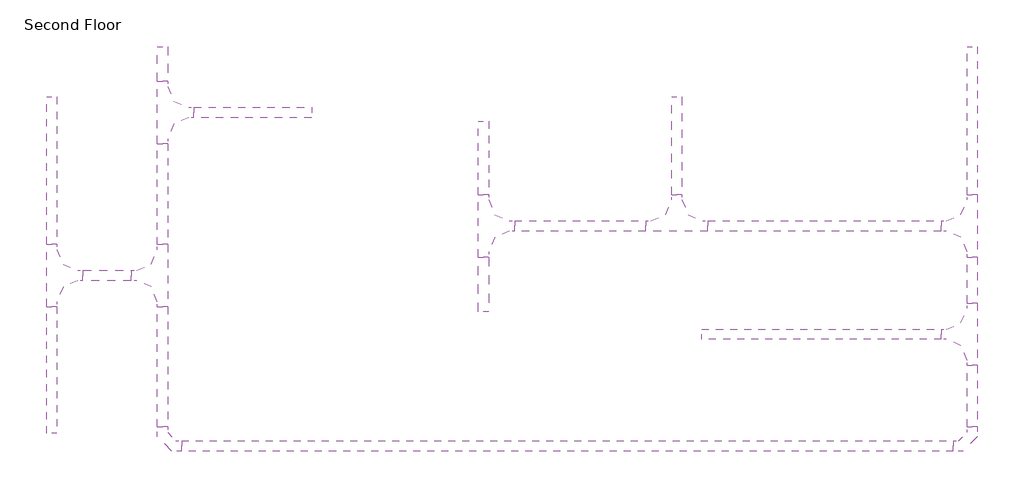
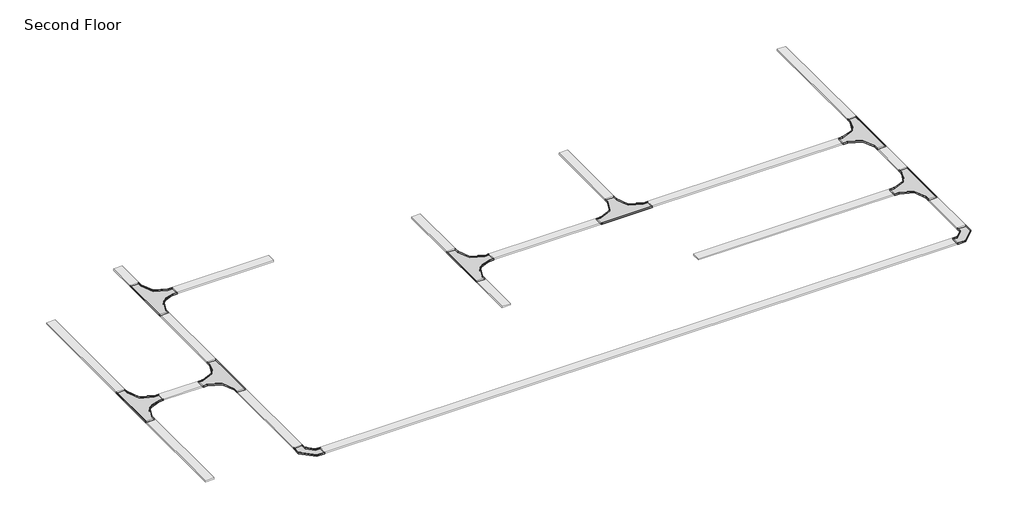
# One storey: 17 cable carrier segments, 9 cable carrier fittings.
"""IFC4 building model written with IfcOpenShell, lengths in millimetres."""

import ifcopenshell
import ifcopenshell.guid

model = None  # the IFC model being written
_history = None  # IfcOwnerHistory: only IFC2X3 demands one
_inside = {}  # id of a spatial element -> (the spatial element, [elements in it])
_under = {}  # id of a project, library or spatial element -> (it, [spatial elements below it])
_declared = {}  # id of a project -> (the project, [libraries it declares])
_typed = {}  # id of a type object -> (the type object, [elements of that type])
_made_of = {}  # id of a material, layer set ... -> (it, [elements and type objects made of it])


def new_model(schema):
    """Start an empty IFC model of exactly this schema.

    Asked for "IFC4X3", IfcOpenShell would pick the latest addendum, in which some entities
    have other attributes; the version numbers below select the first issue.
    IFC2X3 requires an IfcOwnerHistory on every rooted entity: one is made here for all.
    """
    global model, _history
    if schema == "IFC4X3":
        model = ifcopenshell.file(schema_version=(4, 3, 0, 0))
    else:
        model = ifcopenshell.file(schema=schema)
    _inside.clear()
    _under.clear()
    _declared.clear()
    _typed.clear()
    _made_of.clear()
    _history = None
    if model.schema == "IFC2X3":
        org = make("IfcOrganization", Name="unknown")
        user = make(
            "IfcPersonAndOrganization",
            ThePerson=make("IfcPerson", FamilyName="unknown"),
            TheOrganization=org,
        )
        app = make(
            "IfcApplication",
            ApplicationDeveloper=org,
            Version="unknown",
            ApplicationFullName="unknown",
            ApplicationIdentifier="unknown",
        )
        _history = make(
            "IfcOwnerHistory",
            OwningUser=user,
            OwningApplication=app,
            ChangeAction="ADDED",
            CreationDate=0,
        )
    return model


def make(cls, **values):
    """One entity of the class cls with the attributes given. An attribute that is None is left unset."""
    return model.create_entity(
        cls, **{name: value for name, value in values.items() if value is not None}
    )


def rooted(cls, **values):
    """An entity with a GlobalId (a new one), such as an element, a storey or a relation."""
    return make(cls, GlobalId=ifcopenshell.guid.new(), OwnerHistory=_history, **values)


def si_unit(unit_type, name, prefix=None):
    """IfcSIUnit, for example si_unit("LENGTHUNIT", "METRE", prefix="MILLI")."""
    return make("IfcSIUnit", UnitType=unit_type, Prefix=prefix, Name=name)


def assignment(units):
    """IfcUnitAssignment: the units of a project."""
    return None if units is None else make("IfcUnitAssignment", Units=units)


def point(xyz):
    """IfcCartesianPoint."""
    return None if xyz is None else make("IfcCartesianPoint", Coordinates=xyz)


def direction(xyz):
    """IfcDirection."""
    return None if xyz is None else make("IfcDirection", DirectionRatios=xyz)


def frame(location, z_axis=None, x_axis=None):
    """IfcAxis2Placement3D, a coordinate frame: its origin and axes. An axis left out is left unset."""
    return make(
        "IfcAxis2Placement3D",
        Location=point(location),
        Axis=direction(z_axis),
        RefDirection=direction(x_axis),
    )


def origin():
    """The frame at (0, 0, 0) with its axes left unset."""
    return frame((0.0, 0.0, 0.0))


def place(relative_to, where):
    """IfcLocalPlacement: puts the frame where relative to a parent placement (None: the world)."""
    return make(
        "IfcLocalPlacement", PlacementRelTo=relative_to, RelativePlacement=where
    )


def context(
    kind, dimensions, precision=None, world=None, true_north=None, identifier=None
):
    """IfcGeometricRepresentationContext, for example the 3D "Model" context."""
    return make(
        "IfcGeometricRepresentationContext",
        ContextIdentifier=identifier,
        ContextType=kind,
        CoordinateSpaceDimension=dimensions,
        Precision=precision,
        WorldCoordinateSystem=world,
        TrueNorth=true_north,
    )


def project(units=None, contexts=None):
    """IfcProject with its units and contexts."""
    return rooted(
        "IfcProject",
        Name="project",
        RepresentationContexts=contexts,
        UnitsInContext=assignment(units),
    )


def spatial(cls, under=None, at=None, **own):
    """A site, building, storey or space (cls), placed at a placement, below another one or the project."""
    s = rooted(cls, ObjectPlacement=at, **own)
    if under is not None:
        _under.setdefault(under.id(), (under, []))[1].append(s)
    return s


def polyline(points):
    """IfcPolyline through the points."""
    return make("IfcPolyline", Points=[point(p) for p in points])


def circle_curve(where, radius):
    """IfcCircle in the frame where."""
    return make("IfcCircle", Position=where, Radius=radius)


def outline(outer, holes=None, kind="AREA"):
    """IfcArbitraryClosedProfileDef: a profile drawn as a closed curve; with holes, ...WithVoids."""
    if holes is None:
        return make("IfcArbitraryClosedProfileDef", ProfileType=kind, OuterCurve=outer)
    return make(
        "IfcArbitraryProfileDefWithVoids",
        ProfileType=kind,
        OuterCurve=outer,
        InnerCurves=holes,
    )


def extrude(swept, where, along, depth):
    """IfcExtrudedAreaSolid: the profile swept, set in the frame where, extruded along a direction by depth."""
    return make(
        "IfcExtrudedAreaSolid",
        SweptArea=swept,
        Position=where,
        ExtrudedDirection=direction(along),
        Depth=depth,
    )


def faces_of(points, faces, orient=None, outer=None):
    """IfcFace entities. A face is a list of loops; a loop is a list of indices into points, from 0.

    orient and outer hold one flag for each loop. By default every Orientation is true, the
    first loop of a face is its IfcFaceOuterBound and the others are IfcFaceBound.
    """
    made = []
    for i, loops in enumerate(faces):
        bounds = []
        for j, loop in enumerate(loops):
            is_outer = j == 0 if outer is None else outer[i][j]
            bounds.append(
                make(
                    "IfcFaceOuterBound" if is_outer else "IfcFaceBound",
                    Bound=make("IfcPolyLoop", Polygon=[points[k] for k in loop]),
                    Orientation=True if orient is None else orient[i][j],
                )
            )
        made.append(make("IfcFace", Bounds=bounds))
    return made


def faceted_brep(points, faces, orient=None, outer=None, voids=None):
    """IfcFacetedBrep: a solid bounded by flat faces; with voids (closed shells), ...WithVoids."""
    shared = [point(p) for p in points]
    hull = make("IfcClosedShell", CfsFaces=faces_of(shared, faces, orient, outer))
    if voids is None:
        return make("IfcFacetedBrep", Outer=hull)
    return make(
        "IfcFacetedBrepWithVoids",
        Outer=hull,
        Voids=[
            make(cls, CfsFaces=faces_of(shared, fs, o, b)) for cls, fs, o, b in voids
        ],
    )


def shape(context_of_items, identifier, shape_type, items):
    """IfcShapeRepresentation: the items that make up one representation, for example the "Body"."""
    return make(
        "IfcShapeRepresentation",
        ContextOfItems=context_of_items,
        RepresentationIdentifier=identifier,
        RepresentationType=shape_type,
        Items=items,
    )


def source(mapping_origin, context_of_items, identifier, shape_type, items):
    """IfcRepresentationMap: a shape defined once, which mapped items show again and again."""
    return make(
        "IfcRepresentationMap",
        MappingOrigin=mapping_origin,
        MappedRepresentation=shape(context_of_items, identifier, shape_type, items),
    )


def transform(
    local_origin,
    x_axis=None,
    y_axis=None,
    z_axis=None,
    scale=None,
    scale2=None,
    scale3=None,
    uniform=True,
):
    """IfcCartesianTransformationOperator3D, or its non-uniform kind. x_axis, y_axis, z_axis: its Axis1, 2, 3."""
    if uniform:
        return make(
            "IfcCartesianTransformationOperator3D",
            Axis1=direction(x_axis),
            Axis2=direction(y_axis),
            LocalOrigin=point(local_origin),
            Scale=scale,
            Axis3=direction(z_axis),
        )
    return make(
        "IfcCartesianTransformationOperator3DnonUniform",
        Axis1=direction(x_axis),
        Axis2=direction(y_axis),
        LocalOrigin=point(local_origin),
        Scale=scale,
        Axis3=direction(z_axis),
        Scale2=scale2,
        Scale3=scale3,
    )


def mapped(mapping_source, mapping_target):
    """IfcMappedItem: shows the shape of a source again, moved by a transform."""
    return make(
        "IfcMappedItem", MappingSource=mapping_source, MappingTarget=mapping_target
    )


def made_of(thing, what):
    """Note that an element or type object is made of a material, layer set ...; save() writes the relation."""
    if what is not None:
        _made_of.setdefault(what.id(), (what, []))[1].append(thing)
    return thing


def element(
    cls,
    number,
    at=None,
    inside=None,
    cuts=None,
    type_object=None,
    material=None,
    context=None,
    identifier="Body",
    shape_type=None,
    held_by="IfcProductDefinitionShape",
    body=None,
    shapes=None,
    **own,
):
    """One element of the class cls, such as IfcWall. Its Tag is "e" and its number.

    at: its placement. inside: the storey or other place that contains it. cuts: it is an
    opening in that element (IfcRelVoidsElement). A single representation is given by context,
    identifier, shape_type and body (its items); several are given by shapes. held_by: the class
    of the entity that holds the representations. save() writes the other relations.
    """
    e = rooted(cls, Tag="e%d" % number, ObjectPlacement=at, **own)
    if body is not None:
        shapes = [shape(context, identifier, shape_type, body)]
    if shapes is not None:
        e.Representation = make(held_by, Representations=shapes)
    if inside is not None:
        _inside.setdefault(inside.id(), (inside, []))[1].append(e)
    if cuts is not None:
        rooted(
            "IfcRelVoidsElement", RelatingBuildingElement=cuts, RelatedOpeningElement=e
        )
    if type_object is not None:
        _typed.setdefault(type_object.id(), (type_object, []))[1].append(e)
    return made_of(e, material)


def aggregate(whole, parts):
    """IfcRelAggregates: a whole, such as a stair, and the parts it consists of."""
    return rooted("IfcRelAggregates", RelatingObject=whole, RelatedObjects=parts)


def save(model, path):
    """Write the relations noted so far, then the file.

    IfcRelAggregates (storeys below a building ...), IfcRelContainedInSpatialStructure (elements
    in a storey), IfcRelDefinesByType, IfcRelAssociatesMaterial and IfcRelDeclares: one each for
    every whole, place, type object, material and project.
    """
    for whole, parts in _under.values():
        aggregate(whole, parts)
    for where, things in _inside.values():
        rooted(
            "IfcRelContainedInSpatialStructure",
            RelatedElements=things,
            RelatingStructure=where,
        )
    for kind, things in _typed.values():
        rooted("IfcRelDefinesByType", RelatedObjects=things, RelatingType=kind)
    for what, things in _made_of.values():
        rooted("IfcRelAssociatesMaterial", RelatedObjects=things, RelatingMaterial=what)
    for by, libraries in _declared.values():
        rooted("IfcRelDeclares", RelatingContext=by, RelatedDefinitions=libraries)
    model.write(path)


def plane_surface(at):
    """IfcPlane: the flat surface through the origin of the frame at, square to its z axis."""
    return make("IfcPlane", Position=at)


def cylinder_surface(at, radius):
    """IfcCylindricalSurface: all points at the distance radius from the z axis of the frame at."""
    return make("IfcCylindricalSurface", Position=at, Radius=radius)


def revolved_surface(curve, axis_point, axis_direction):
    """IfcSurfaceOfRevolution: the curve turned about the line through axis_point along axis_direction."""
    return make(
        "IfcSurfaceOfRevolution",
        SweptCurve=make("IfcArbitraryOpenProfileDef", ProfileType="CURVE", Curve=curve),
        AxisPosition=make("IfcAxis1Placement", Location=point(axis_point), Axis=direction(axis_direction)),
    )


def advanced_brep(points, edges, surfaces, faces):
    """IfcAdvancedBrep: a solid bounded by faces that lie on surfaces and meet in shared edges.

    An edge is (start, end): straight between two places in points (the first is 0);
    or (start, end, curve); or (start, end, curve, False) where it runs against its curve.
    A face is (place in surfaces, loops), or (place, loops, False) where it looks against
    its surface's normal. A loop lists edges by number (the first is 1), with a minus sign
    where the edge is run from its end to its start. The first loop is the outer one.
    """
    corners = [point(p) for p in points]
    vertices = [make("IfcVertexPoint", VertexGeometry=c) for c in corners]
    made = []
    for start, end, *more in edges:
        made.append(
            make(
                "IfcEdgeCurve",
                EdgeStart=vertices[start],
                EdgeEnd=vertices[end],
                EdgeGeometry=more[0] if more else make("IfcPolyline", Points=[corners[start], corners[end]]),
                SameSense=more[1] if len(more) > 1 else True,
            )
        )
    hull = []
    for where, loops, *sense in faces:
        bounds = []
        for j, loop in enumerate(loops):
            ring = [make("IfcOrientedEdge", EdgeElement=made[abs(k) - 1], Orientation=k > 0) for k in loop]
            bounds.append(
                make(
                    "IfcFaceOuterBound" if j == 0 else "IfcFaceBound",
                    Bound=make("IfcEdgeLoop", EdgeList=ring),
                    Orientation=True,
                )
            )
        hull.append(make("IfcAdvancedFace", Bounds=bounds, FaceSurface=surfaces[where], SameSense=sense[0] if sense else True))
    return make("IfcAdvancedBrep", Outer=make("IfcClosedShell", CfsFaces=hull))


def cable_tray_horizontal_bend_standard_cea69160(model_context):
    return source(origin(), model_context, "Body", "Brep", [
        faceted_brep([(-275.0, -75.0, -12.5), (-275.0, -75.0, 12.5), (-275.0, -72.46, 12.5), (-275.0, -72.46, -9.96), (-275.0, 72.46, -9.96), (-275.0, 72.46, 12.5), (-275.0, 75.0, 12.5), (-275.0, 75.0, -12.5), (75.0, 275.0, -12.5), (-75.0, 275.0, -12.5), (-75.0, 275.0, 12.5), (-72.46, 275.0, 12.5), (-72.46, 275.0, -9.96), (72.46, 275.0, -9.96), (72.46, 275.0, 12.5), (75.0, 275.0, 12.5), (-130.0252532, -75.0, -12.5), (-130.0252532, -75.0, 12.5), (75.0, 130.0252532, 12.5), (72.46, 131.0773556, 12.5), (-131.0773556, -72.46, 12.5), (-131.0773556, -72.46, -9.96), (72.46, 131.0773556, -9.96), (-72.46, 191.1051851, -9.96), (-191.1051851, 72.46, -9.96), (-191.1051851, 72.46, 12.5), (-72.46, 191.1051851, 12.5), (-75.0, 192.1572875, 12.5), (-192.1572875, 75.0, 12.5), (-192.1572875, 75.0, -12.5), (-75.0, 192.1572875, -12.5), (75.0, 130.0252532, -12.5)], [[[0, 1, 2, 3, 4, 5, 6, 7]], [[8, 9, 10, 11, 12, 13, 14, 15]], [[1, 0, 16, 17]], [[2, 1, 17, 18, 15, 14, 19, 20]], [[3, 2, 20, 21]], [[4, 3, 21, 22, 13, 12, 23, 24]], [[5, 4, 24, 25]], [[6, 5, 25, 26, 11, 10, 27, 28]], [[7, 6, 28, 29]], [[0, 7, 29, 30, 9, 8, 31, 16]], [[17, 16, 31, 18]], [[21, 20, 19, 22]], [[25, 24, 23, 26]], [[29, 28, 27, 30]], [[18, 31, 8, 15]], [[22, 19, 14, 13]], [[26, 23, 12, 11]], [[30, 27, 10, 9]]]),
    ])


def m_channel_horizontal_tee_300mm_radius_7657e6b0(model_context):
    return source(origin(), model_context, "Body", "AdvancedBrep", [
        advanced_brep(
        [(-75.0, -375.0, 12.5), (-75.0, -450.0, 12.5), (-72.46, -450.0, 12.5), (-72.46, -375.0, 12.5), (-375.0, -72.46, 12.5), (-450.0, -72.46, 12.5), (-450.0, -75.0, 12.5), (-375.0, -75.0, 12.5), (75.0, -375.0, 12.5), (375.0, -75.0, 12.5), (450.0, -75.0, 12.5), (450.0, -72.46, 12.5), (375.0, -72.46, 12.5), (72.46, -375.0, 12.5), (72.46, -450.0, 12.5), (75.0, -450.0, 12.5), (450.0, 75.0, 12.5), (-450.0, 75.0, 12.5), (-450.0, 72.46, 12.5), (450.0, 72.46, 12.5), (-75.0, -375.0, -12.5), (-375.0, -75.0, -12.5), (-450.0, -75.0, -12.5), (-450.0, 75.0, -12.5), (450.0, 75.0, -12.5), (450.0, -75.0, -12.5), (375.0, -75.0, -12.5), (75.0, -375.0, -12.5), (75.0, -450.0, -12.5), (-75.0, -450.0, -12.5), (-75.0, -375.0, -9.96), (72.46, -450.0, -9.96), (-72.46, -450.0, -9.96), (-72.46, -375.0, -9.96), (-375.0, -72.46, -9.96), (-450.0, -72.46, -9.96), (-450.0, 72.46, -9.96), (-375.0, -75.0, -9.96), (75.0, -375.0, -9.96), (375.0, -75.0, -9.96), (450.0, 72.46, -9.96), (450.0, -72.46, -9.96), (375.0, -72.46, -9.96), (72.46, -375.0, -9.96)],
        [
            (0, 1),
            (1, 2),
            (2, 3),
            (3, 4, circle_curve(frame((-375.0, -375.0, 12.5), z_axis=(0.0, 0.0, 1.0), x_axis=(1.0, 0.0, 0.0)), 302.54)),
            (4, 5),
            (5, 6),
            (6, 7),
            (7, 0, circle_curve(frame((-375.0, -375.0, 12.5), z_axis=(0.0, 0.0, -1.0), x_axis=(1.0, 0.0, 0.0)), 300.0)),
            (8, 9, circle_curve(frame((375.0, -375.0, 12.5), z_axis=(0.0, 0.0, -1.0), x_axis=(1.0, 0.0, 0.0)), 300.0)),
            (9, 10),
            (10, 11),
            (11, 12),
            (12, 13, circle_curve(frame((375.0, -375.0, 12.5), z_axis=(0.0, 0.0, 1.0), x_axis=(1.0, 0.0, 0.0)), 302.54)),
            (13, 14),
            (14, 15),
            (15, 8),
            (16, 17),
            (17, 18),
            (18, 19),
            (19, 16),
            (20, 21, circle_curve(frame((-375.0, -375.0, -12.5), z_axis=(0.0, 0.0, 1.0), x_axis=(1.0, 0.0, 0.0)), 300.0)),
            (21, 22),
            (22, 23),
            (23, 24),
            (24, 25),
            (25, 26),
            (26, 27, circle_curve(frame((375.0, -375.0, -12.5), z_axis=(0.0, 0.0, 1.0), x_axis=(1.0, 0.0, 0.0)), 300.0)),
            (27, 28),
            (28, 29),
            (29, 20),
            (29, 1),
            (0, 30),
            (30, 20),
            (28, 15),
            (14, 31),
            (31, 32),
            (32, 2),
            (32, 33),
            (33, 3),
            (33, 34, circle_curve(frame((-375.0, -375.0, -9.96), z_axis=(0.0, 0.0, 1.0), x_axis=(1.0, 0.0, 0.0)), 302.54)),
            (34, 4),
            (34, 35),
            (35, 5),
            (35, 36),
            (36, 18),
            (17, 23),
            (22, 6),
            (21, 37),
            (37, 7),
            (8, 38),
            (38, 27),
            (26, 39),
            (39, 9),
            (25, 10),
            (24, 16),
            (19, 40),
            (40, 41),
            (41, 11),
            (41, 42),
            (42, 12),
            (42, 43, circle_curve(frame((375.0, -375.0, -9.96), z_axis=(0.0, 0.0, 1.0), x_axis=(1.0, 0.0, 0.0)), 302.54)),
            (43, 13),
            (43, 31),
            (36, 40),
        ],
        [
            plane_surface(frame((-75.0, -375.0, 12.5), z_axis=(0.0, 0.0, 1.0), x_axis=(0.0, -1.0, 0.0))),
            plane_surface(frame((-75.0, -375.0, -12.5), z_axis=(0.0, 0.0, -1.0), x_axis=(0.0, 1.0, 0.0))),
            plane_surface(frame((-75.0, -375.0, 12.5), z_axis=(-1.0, 0.0, 0.0), x_axis=(0.0, 0.0, -1.0))),
            plane_surface(frame((-75.0, -450.0, 12.5), z_axis=(0.0, -1.0, 0.0), x_axis=(0.0, 0.0, -1.0))),
            plane_surface(frame((-72.46, -450.0, 12.5), z_axis=(1.0, 0.0, 0.0), x_axis=(0.0, 0.0, -1.0))),
            cylinder_surface(frame((-375.0, -375.0, -12.5), z_axis=(0.0, 0.0, 1.0), x_axis=(1.0, 0.0, 0.0)), 302.54),
            plane_surface(frame((-375.0, -72.46, 12.5), z_axis=(0.0, 1.0, 0.0), x_axis=(0.0, 0.0, -1.0))),
            plane_surface(frame((-450.0, -72.46, 12.5), z_axis=(-1.0, 0.0, 0.0), x_axis=(0.0, 0.0, -1.0))),
            plane_surface(frame((-450.0, -75.0, 12.5), z_axis=(0.0, -1.0, 0.0), x_axis=(0.0, 0.0, -1.0))),
            revolved_surface(polyline([(-75.0, -375.0, -12.5), (-75.0, -375.0, 12.5)]), (-375.0, -375.0, -12.5), (0.0, 0.0, -1.0)),
            revolved_surface(polyline([(675.0, -375.0, -12.5), (675.0, -375.0, 12.5)]), (375.0, -375.0, 0.0), (0.0, 0.0, -1.0)),
            plane_surface(frame((375.0, -75.0, 12.5), z_axis=(0.0, -1.0, 0.0), x_axis=(0.0, 0.0, -1.0))),
            plane_surface(frame((450.0, -75.0, 12.5), z_axis=(1.0, 0.0, 0.0), x_axis=(0.0, 0.0, -1.0))),
            plane_surface(frame((450.0, -72.46, 12.5), z_axis=(0.0, 1.0, 0.0), x_axis=(0.0, 0.0, -1.0))),
            cylinder_surface(frame((375.0, -375.0, 0.0), z_axis=(0.0, 0.0, 1.0), x_axis=(1.0, 0.0, 0.0)), 302.54),
            plane_surface(frame((72.46, -375.0, 12.5), z_axis=(-1.0, 0.0, 0.0), x_axis=(0.0, 0.0, -1.0))),
            plane_surface(frame((75.0, -450.0, 12.5), z_axis=(1.0, 0.0, 0.0), x_axis=(0.0, 0.0, -1.0))),
            plane_surface(frame((450.0, 75.0, 12.5), z_axis=(0.0, 1.0, 0.0), x_axis=(0.0, 0.0, -1.0))),
            plane_surface(frame((-450.0, 72.46, 12.5), z_axis=(0.0, -1.0, 0.0), x_axis=(0.0, 0.0, -1.0))),
            plane_surface(frame((-75.0, -375.0, -9.96), z_axis=(0.0, 0.0, 1.0), x_axis=(0.0, -1.0, 0.0))),
        ],
        [
            (0, [[1, 2, 3, 4, 5, 6, 7, 8]]),
            (0, [[9, 10, 11, 12, 13, 14, 15, 16]]),
            (0, [[17, 18, 19, 20]]),
            (1, [[21, 22, 23, 24, 25, 26, 27, 28, 29, 30]]),
            (2, [[31, -1, 32, 33, -30]]),
            (3, [[-2, -31, -29, 34, -15, 35, 36, 37]]),
            (4, [[-3, -37, 38, 39]]),
            (5, [[-4, -39, 40, 41]]),
            (6, [[-5, -41, 42, 43]]),
            (7, [[-6, -43, 44, 45, -18, 46, -23, 47]]),
            (8, [[-7, -47, -22, 48, 49]]),
            (9, [[-8, -49, -48, -21, -33, -32]]),
            (10, [[-9, 50, 51, -27, 52, 53]]),
            (11, [[54, -10, -53, -52, -26]]),
            (12, [[-11, -54, -25, 55, -20, 56, 57, 58]]),
            (13, [[-12, -58, 59, 60]]),
            (14, [[-13, -60, 61, 62]]),
            (15, [[-14, -62, 63, -35]]),
            (16, [[-16, -34, -28, -51, -50]]),
            (17, [[-46, -17, -55, -24]]),
            (18, [[-19, -45, 64, -56]]),
            (19, [[-36, -63, -61, -59, -57, -64, -44, -42, -40, -38]]),
        ],
    ),
    ])


model = new_model("IFC4")

# Units and contexts
model_context = context("Model", 3, world=origin())
ifc_project = project(units=[si_unit("LENGTHUNIT", "METRE", prefix="MILLI")], contexts=[model_context])

# Site, building, storey
site = spatial("IfcSite", under=ifc_project)
building = spatial("IfcBuilding", under=site)
storey = spatial("IfcBuildingStorey", under=building, Name="Second Floor", Elevation=4000.0)

# Cable carrier fittings
placement = place(None, origin())
cable_tray_horizontal_bend_standard_shape = cable_tray_horizontal_bend_standard_cea69160(model_context)
element("IfcCableCarrierFitting", 1, ObjectType="Cable Tray Horizontal Bend : Standard", at=placement, inside=storey, context=model_context, shape_type="MappedRepresentation", body=[
    mapped(cable_tray_horizontal_bend_standard_shape, transform((8567.076402, -4128.3205251, 7000.0), x_axis=(1.0, 0.0, 0.0), y_axis=(0.0, 1.0, 0.0), z_axis=(0.0, 0.0, 1.0))),
])
element("IfcCableCarrierFitting", 2, ObjectType="Cable Tray Horizontal Bend : Standard", at=placement, inside=storey, context=model_context, shape_type="MappedRepresentation", body=[
    mapped(cable_tray_horizontal_bend_standard_shape, transform((-3112.923598, -4128.3205251, 7000.0), x_axis=(0.0, -1.0, 0.0), y_axis=(1.0, 0.0, 0.0), z_axis=(0.0, 0.0, 1.0))),
])
m_channel_horizontal_tee_300mm_radius_shape = m_channel_horizontal_tee_300mm_radius_7657e6b0(model_context)
element("IfcCableCarrierFitting", 3, ObjectType="M_Channel Horizontal Tee : 300mm Radius", at=placement, inside=storey, context=model_context, shape_type="MappedRepresentation", body=[
    mapped(m_channel_horizontal_tee_300mm_radius_shape, transform((8567.076402, -955.1832384, 7000.0), x_axis=(0.0, -1.0, 0.0), y_axis=(1.0, 0.0, 0.0), z_axis=(0.0, 0.0, 1.0))),
])
element("IfcCableCarrierFitting", 4, ObjectType="M_Channel Horizontal Tee : 300mm Radius", at=placement, inside=storey, context=model_context, shape_type="MappedRepresentation", body=[
    mapped(m_channel_horizontal_tee_300mm_radius_shape, transform((4304.6003663, -955.1832384, 7000.0), x_axis=(-1.0, 0.0, 0.0), y_axis=(0.0, -1.0, 0.0), z_axis=(0.0, 0.0, 1.0))),
])
element("IfcCableCarrierFitting", 5, ObjectType="M_Channel Horizontal Tee : 300mm Radius", at=placement, inside=storey, context=model_context, shape_type="MappedRepresentation", body=[
    mapped(m_channel_horizontal_tee_300mm_radius_shape, transform((-3112.923598, 679.2091256, 7000.0), x_axis=(0.0, 1.0, 0.0), y_axis=(-1.0, 0.0, 0.0), z_axis=(0.0, 0.0, 1.0))),
])
element("IfcCableCarrierFitting", 6, ObjectType="M_Channel Horizontal Tee : 300mm Radius", at=placement, inside=storey, context=model_context, shape_type="MappedRepresentation", body=[
    mapped(m_channel_horizontal_tee_300mm_radius_shape, transform((-3112.923598, -1672.0556998, 7000.0), x_axis=(0.0, -1.0, 0.0), y_axis=(1.0, 0.0, 0.0), z_axis=(0.0, 0.0, 1.0))),
])
element("IfcCableCarrierFitting", 7, ObjectType="M_Channel Horizontal Tee : 300mm Radius", at=placement, inside=storey, context=model_context, shape_type="MappedRepresentation", body=[
    mapped(m_channel_horizontal_tee_300mm_radius_shape, transform((-4712.923598, -1672.0556998, 7000.0), x_axis=(0.0, 1.0, 0.0), y_axis=(-1.0, 0.0, 0.0), z_axis=(0.0, 0.0, 1.0))),
])
element("IfcCableCarrierFitting", 8, ObjectType="M_Channel Horizontal Tee : 300mm Radius", at=placement, inside=storey, context=model_context, shape_type="MappedRepresentation", body=[
    mapped(m_channel_horizontal_tee_300mm_radius_shape, transform((1514.6003663, -955.1832384, 7000.0), x_axis=(0.0, 1.0, 0.0), y_axis=(-1.0, 0.0, 0.0), z_axis=(0.0, 0.0, 1.0))),
])
element("IfcCableCarrierFitting", 9, ObjectType="M_Channel Horizontal Tee : 300mm Radius", at=placement, inside=storey, context=model_context, shape_type="MappedRepresentation", body=[
    mapped(m_channel_horizontal_tee_300mm_radius_shape, transform((8567.076402, -2519.0272676, 7000.0), x_axis=(0.0, -1.0, 0.0), y_axis=(1.0, 0.0, 0.0), z_axis=(0.0, 0.0, 1.0))),
])

# Cable carrier segments
element("IfcCableCarrierSegment", 10, ObjectType="Channel Cable Tray", at=placement, inside=storey, context=model_context, shape_type="SweptSolid", body=[
    extrude(outline(polyline([(8492.076402, -2969.0272676), (8642.076402, -2969.0272676), (8642.076402, -3853.3205251), (8492.076402, -3853.3205251), (8492.076402, -2969.0272676)])), frame((0.0, 0.0, 6987.5), z_axis=(0.0, 0.0, 1.0), x_axis=(1.0, 0.0, 0.0)), (0.0, 0.0, 1.0), 25.0),
])
element("IfcCableCarrierSegment", 11, ObjectType="Channel Cable Tray", at=placement, inside=storey, context=model_context, shape_type="SweptSolid", body=[
    extrude(outline(polyline([(8292.076402, -4053.3205251), (8292.076402, -4203.3205251), (-2837.923598, -4203.3205251), (-2837.923598, -4053.3205251), (8292.076402, -4053.3205251)])), frame((0.0, 0.0, 6987.5), z_axis=(0.0, 0.0, 1.0), x_axis=(1.0, 0.0, 0.0)), (0.0, 0.0, 1.0), 25.0),
])
element("IfcCableCarrierSegment", 12, ObjectType="Channel Cable Tray", at=placement, inside=storey, context=model_context, shape_type="SweptSolid", body=[
    extrude(outline(polyline([(3854.6003663, -880.1832384), (3854.6003663, -1030.1832384), (1964.6003663, -1030.1832384), (1964.6003663, -880.1832384), (3854.6003663, -880.1832384)])), frame((0.0, 0.0, 6987.5), z_axis=(0.0, 0.0, 1.0), x_axis=(1.0, 0.0, 0.0)), (0.0, 0.0, 1.0), 25.0),
])
element("IfcCableCarrierSegment", 13, ObjectType="Channel Cable Tray", at=placement, inside=storey, context=model_context, shape_type="SweptSolid", body=[
    extrude(outline(polyline([(8492.076402, 1631.6794749), (8642.076402, 1631.6794749), (8642.076402, -505.1832384), (8492.076402, -505.1832384), (8492.076402, 1631.6794749)])), frame((0.0, 0.0, 6987.5), z_axis=(0.0, 0.0, 1.0), x_axis=(1.0, 0.0, 0.0)), (0.0, 0.0, 1.0), 25.0),
])
element("IfcCableCarrierSegment", 14, ObjectType="Channel Cable Tray", at=placement, inside=storey, context=model_context, shape_type="SweptSolid", body=[
    extrude(outline(polyline([(4379.6003663, -505.1832384), (4229.6003663, -505.1832384), (4229.6003663, 904.8167616), (4379.6003663, 904.8167616), (4379.6003663, -505.1832384)])), frame((0.0, 0.0, 6987.5), z_axis=(0.0, 0.0, 1.0), x_axis=(1.0, 0.0, 0.0)), (0.0, 0.0, 1.0), 25.0),
])
element("IfcCableCarrierSegment", 15, ObjectType="Channel Cable Tray", at=placement, inside=storey, context=model_context, shape_type="SweptSolid", body=[
    extrude(outline(polyline([(8117.076402, -880.1832384), (8117.076402, -1030.1832384), (4754.6003663, -1030.1832384), (4754.6003663, -880.1832384), (8117.076402, -880.1832384)])), frame((0.0, 0.0, 6987.5), z_axis=(0.0, 0.0, 1.0), x_axis=(1.0, 0.0, 0.0)), (0.0, 0.0, 1.0), 25.0),
])
element("IfcCableCarrierSegment", 16, ObjectType="Channel Cable Tray", at=placement, inside=storey, context=model_context, shape_type="SweptSolid", body=[
    extrude(outline(polyline([(-3037.923598, 1129.2091256), (-3187.923598, 1129.2091256), (-3187.923598, 1631.6794749), (-3037.923598, 1631.6794749), (-3037.923598, 1129.2091256)])), frame((0.0, 0.0, 6987.5), z_axis=(0.0, 0.0, 1.0), x_axis=(1.0, 0.0, 0.0)), (0.0, 0.0, 1.0), 25.0),
])
element("IfcCableCarrierSegment", 17, ObjectType="Channel Cable Tray", at=placement, inside=storey, context=model_context, shape_type="SweptSolid", body=[
    extrude(outline(polyline([(-2662.923598, 604.2091256), (-2662.923598, 754.2091256), (-962.923598, 754.2091256), (-962.923598, 604.2091256), (-2662.923598, 604.2091256)])), frame((0.0, 0.0, 6987.5), z_axis=(0.0, 0.0, 1.0), x_axis=(1.0, 0.0, 0.0)), (0.0, 0.0, 1.0), 25.0),
])
element("IfcCableCarrierSegment", 18, ObjectType="Channel Cable Tray", at=placement, inside=storey, context=model_context, shape_type="SweptSolid", body=[
    extrude(outline(polyline([(-3037.923598, -1222.0556998), (-3187.923598, -1222.0556998), (-3187.923598, 229.2091256), (-3037.923598, 229.2091256), (-3037.923598, -1222.0556998)])), frame((0.0, 0.0, 6987.5), z_axis=(0.0, 0.0, 1.0), x_axis=(1.0, 0.0, 0.0)), (0.0, 0.0, 1.0), 25.0),
])
element("IfcCableCarrierSegment", 19, ObjectType="Channel Cable Tray", at=placement, inside=storey, context=model_context, shape_type="SweptSolid", body=[
    extrude(outline(polyline([(-3562.923598, -1597.0556998), (-3562.923598, -1747.0556998), (-4262.923598, -1747.0556998), (-4262.923598, -1597.0556998), (-3562.923598, -1597.0556998)])), frame((0.0, 0.0, 6987.5), z_axis=(0.0, 0.0, 1.0), x_axis=(1.0, 0.0, 0.0)), (0.0, 0.0, 1.0), 25.0),
])
element("IfcCableCarrierSegment", 20, ObjectType="Channel Cable Tray", at=placement, inside=storey, context=model_context, shape_type="SweptSolid", body=[
    extrude(outline(polyline([(-3037.923598, -3853.3205251), (-3187.923598, -3853.3205251), (-3187.923598, -2122.0556998), (-3037.923598, -2122.0556998), (-3037.923598, -3853.3205251)])), frame((0.0, 0.0, 6987.5), z_axis=(0.0, 0.0, 1.0), x_axis=(1.0, 0.0, 0.0)), (0.0, 0.0, 1.0), 25.0),
])
element("IfcCableCarrierSegment", 21, ObjectType="Channel Cable Tray", at=placement, inside=storey, context=model_context, shape_type="SweptSolid", body=[
    extrude(outline(polyline([(-4637.923598, -1222.0556998), (-4787.923598, -1222.0556998), (-4787.923598, 904.8167616), (-4637.923598, 904.8167616), (-4637.923598, -1222.0556998)])), frame((0.0, 0.0, 6987.5), z_axis=(0.0, 0.0, 1.0), x_axis=(1.0, 0.0, 0.0)), (0.0, 0.0, 1.0), 25.0),
])
element("IfcCableCarrierSegment", 22, ObjectType="Channel Cable Tray", at=placement, inside=storey, context=model_context, shape_type="SweptSolid", body=[
    extrude(outline(polyline([(-4787.923598, -2122.0556998), (-4637.923598, -2122.0556998), (-4637.923598, -3947.0556998), (-4787.923598, -3947.0556998), (-4787.923598, -2122.0556998)])), frame((0.0, 0.0, 6987.5), z_axis=(0.0, 0.0, 1.0), x_axis=(1.0, 0.0, 0.0)), (0.0, 0.0, 1.0), 25.0),
])
element("IfcCableCarrierSegment", 23, ObjectType="Channel Cable Tray", at=placement, inside=storey, context=model_context, shape_type="SweptSolid", body=[
    extrude(outline(polyline([(1439.6003663, -1405.1832384), (1589.6003663, -1405.1832384), (1589.6003663, -2195.1832384), (1439.6003663, -2195.1832384), (1439.6003663, -1405.1832384)])), frame((0.0, 0.0, 6987.5), z_axis=(0.0, 0.0, 1.0), x_axis=(1.0, 0.0, 0.0)), (0.0, 0.0, 1.0), 25.0),
])
element("IfcCableCarrierSegment", 24, ObjectType="Channel Cable Tray", at=placement, inside=storey, context=model_context, shape_type="SweptSolid", body=[
    extrude(outline(polyline([(1589.6003663, -505.1832384), (1439.6003663, -505.1832384), (1439.6003663, 554.8167616), (1589.6003663, 554.8167616), (1589.6003663, -505.1832384)])), frame((0.0, 0.0, 6987.5), z_axis=(0.0, 0.0, 1.0), x_axis=(1.0, 0.0, 0.0)), (0.0, 0.0, 1.0), 25.0),
])
element("IfcCableCarrierSegment", 25, ObjectType="Channel Cable Tray", at=placement, inside=storey, context=model_context, shape_type="SweptSolid", body=[
    extrude(outline(polyline([(8117.076402, -2444.0272676), (8117.076402, -2594.0272676), (4667.076402, -2594.0272676), (4667.076402, -2444.0272676), (8117.076402, -2444.0272676)])), frame((0.0, 0.0, 6987.5), z_axis=(0.0, 0.0, 1.0), x_axis=(1.0, 0.0, 0.0)), (0.0, 0.0, 1.0), 25.0),
])
element("IfcCableCarrierSegment", 26, ObjectType="Channel Cable Tray", at=placement, inside=storey, context=model_context, shape_type="SweptSolid", body=[
    extrude(outline(polyline([(8492.076402, -1405.1832384), (8642.076402, -1405.1832384), (8642.076402, -2069.0272676), (8492.076402, -2069.0272676), (8492.076402, -1405.1832384)])), frame((0.0, 0.0, 6987.5), z_axis=(0.0, 0.0, 1.0), x_axis=(1.0, 0.0, 0.0)), (0.0, 0.0, 1.0), 25.0),
])

save(model, "model.ifc")
